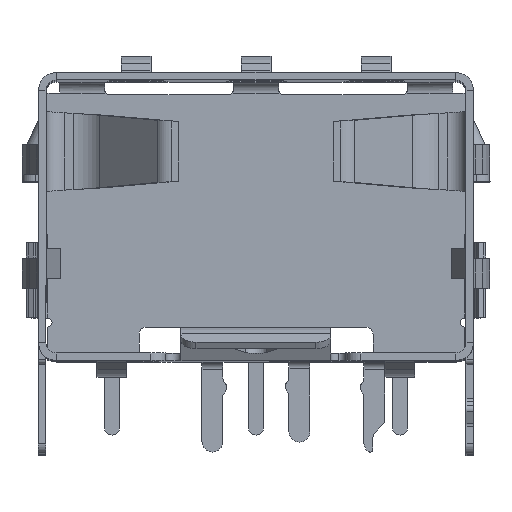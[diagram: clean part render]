
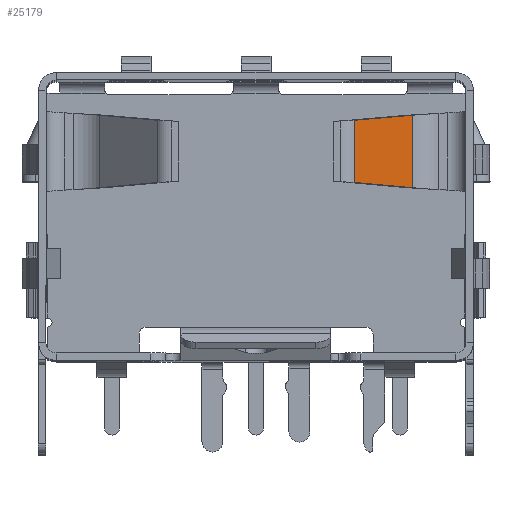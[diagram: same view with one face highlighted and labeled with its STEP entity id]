
A CAD part, top view. The second image highlights one B-rep face of the part: STEP entity #25179.
In plain terms, the highlighted planar face has unit normal (0.743, 0, 0.669).
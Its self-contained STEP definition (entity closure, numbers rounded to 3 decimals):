
#3694=DIRECTION('',(-0.668,0.059,0.742));
#3695=VECTOR('',#3694,2.904);
#3696=CARTESIAN_POINT('',(5.208,1.044,-47.553));
#3697=LINE('',#3696,#3695);
#3698=DIRECTION('',(-0.668,-0.059,0.742));
#3699=VECTOR('',#3698,2.904);
#3700=CARTESIAN_POINT('',(5.208,3.456,-47.553));
#3701=LINE('',#3700,#3699);
#3702=DIRECTION('',(0.,1.,0.));
#3703=VECTOR('',#3702,2.413);
#3704=CARTESIAN_POINT('',(5.208,1.044,-47.553));
#3705=LINE('',#3704,#3703);
#3742=DIRECTION('',(0.,1.,0.));
#3743=VECTOR('',#3742,2.072);
#3744=CARTESIAN_POINT('',(3.268,1.214,-45.399));
#3745=LINE('',#3744,#3743);
#18805=CARTESIAN_POINT('',(5.208,1.044,
-47.553));
#18806=CARTESIAN_POINT('',(3.268,1.214,
-45.399));
#18807=VERTEX_POINT('',#18805);
#18808=VERTEX_POINT('',#18806);
#18809=CARTESIAN_POINT('',(5.208,3.456,
-47.553));
#18810=CARTESIAN_POINT('',(3.268,3.286,
-45.399));
#18811=VERTEX_POINT('',#18809);
#18812=VERTEX_POINT('',#18810);
#25165=CARTESIAN_POINT('',(5.208,0.9,
-47.553));
#25166=DIRECTION('',(-0.743,0.,-0.669));
#25167=DIRECTION('',(-0.669,0.,0.743));
#25168=AXIS2_PLACEMENT_3D('',#25165,#25166,#25167);
#25169=PLANE('',#25168);
#25171=ORIENTED_EDGE('',*,*,#25170,.T.);
#25173=ORIENTED_EDGE('',*,*,#25172,.T.);
#25175=ORIENTED_EDGE('',*,*,#25174,.F.);
#25176=ORIENTED_EDGE('',*,*,#25157,.F.);
#25177=EDGE_LOOP('',(#25171,#25173,#25175,#25176));
#25178=FACE_OUTER_BOUND('',#25177,.F.);
#25179=ADVANCED_FACE('',(#25178),#25169,.F.);
#25157=EDGE_CURVE('',#18807,#18811,#3705,.T.);
#25170=EDGE_CURVE('',#18807,#18808,#3697,.T.);
#25172=EDGE_CURVE('',#18808,#18812,#3745,.T.);
#25174=EDGE_CURVE('',#18811,#18812,#3701,.T.);
